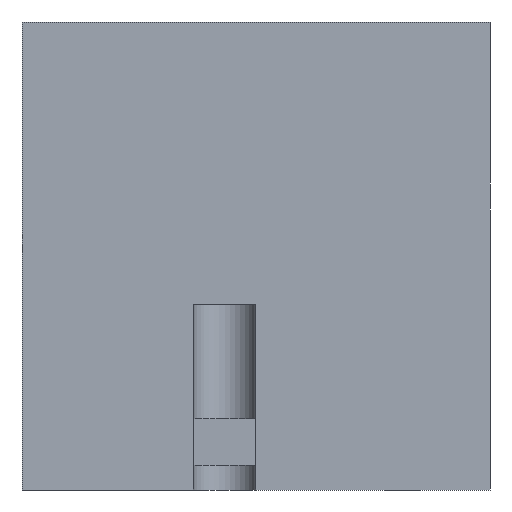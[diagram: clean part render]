
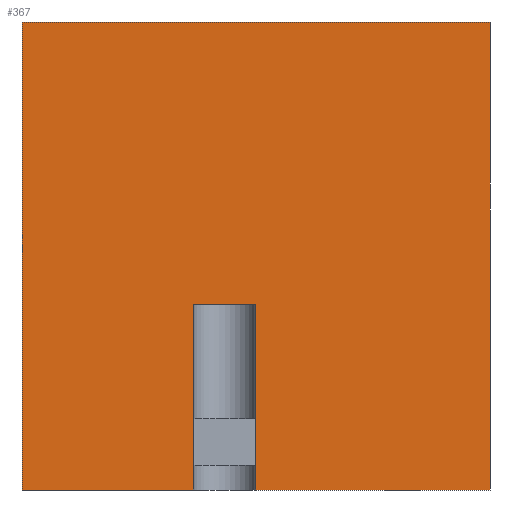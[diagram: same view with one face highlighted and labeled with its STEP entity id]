
A CAD part, left-side view. The second image highlights one B-rep face of the part: STEP entity #367.
In plain terms, the highlighted planar face has unit normal (-1, 0, 0).
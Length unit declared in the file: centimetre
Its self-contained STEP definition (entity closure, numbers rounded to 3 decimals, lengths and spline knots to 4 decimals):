
#74 = LINE ( 'NONE', #864, #508 ) ;
#102 = ORIENTED_EDGE ( 'NONE', *, *, #223, .F. ) ;
#103 = DIRECTION ( 'NONE',  ( 0., 0., -1. ) ) ;
#116 = CARTESIAN_POINT ( 'NONE',  ( 0., 500., 397.0077 ) ) ;
#165 = CARTESIAN_POINT ( 'NONE',  ( 0., 0., 0. ) ) ;
#223 = EDGE_CURVE ( 'NONE', #259, #1155, #889, .T. ) ;
#233 = DIRECTION ( 'NONE',  ( 0., -1., 0. ) ) ;
#239 = CARTESIAN_POINT ( 'NONE',  ( 0., 0., 1000. ) ) ;
#248 = CARTESIAN_POINT ( 'NONE',  ( 0., 0., 1000. ) ) ;
#259 = VERTEX_POINT ( 'NONE', #239 ) ;
#277 = CARTESIAN_POINT ( 'NONE',  ( 0., 1000., 0. ) ) ;
#291 = CARTESIAN_POINT ( 'NONE',  ( 0., 1000., 1000. ) ) ;
#305 = CARTESIAN_POINT ( 'NONE',  ( 0., 1000., 0. ) ) ;
#367 = ADVANCED_FACE ( 'NONE', ( #1546 ), #540, .F. ) ;
#376 = EDGE_CURVE ( 'NONE', #1059, #1155, #1405, .T. ) ;
#408 = DIRECTION ( 'NONE',  ( 0., -1., 0. ) ) ;
#462 = VERTEX_POINT ( 'NONE', #305 ) ;
#508 = VECTOR ( 'NONE', #233, 100. ) ;
#540 = PLANE ( 'NONE',  #1519 ) ;
#598 = ORIENTED_EDGE ( 'NONE', *, *, #1461, .F. ) ;
#643 = ORIENTED_EDGE ( 'NONE', *, *, #975, .T. ) ;
#657 = ORIENTED_EDGE ( 'NONE', *, *, #1395, .F. ) ;
#665 = VERTEX_POINT ( 'NONE', #1204 ) ;
#733 = ORIENTED_EDGE ( 'NONE', *, *, #875, .T. ) ;
#736 = LINE ( 'NONE', #1477, #1554 ) ;
#739 = DIRECTION ( 'NONE',  ( 0., -1., 0. ) ) ;
#762 = LINE ( 'NONE', #1514, #1486 ) ;
#768 = EDGE_LOOP ( 'NONE', ( #643, #733, #1009, #102, #598, #1148, #1170, #657 ) ) ;
#790 = CARTESIAN_POINT ( 'NONE',  ( 0., 1000., 397.0077 ) ) ;
#796 = DIRECTION ( 'NONE',  ( 0., 0., -1. ) ) ;
#809 = VECTOR ( 'NONE', #408, 100. ) ;
#854 = EDGE_CURVE ( 'NONE', #462, #1457, #762, .T. ) ;
#864 = CARTESIAN_POINT ( 'NONE',  ( 0., 1000., 1000. ) ) ;
#875 = EDGE_CURVE ( 'NONE', #1338, #1059, #896, .T. ) ;
#889 = LINE ( 'NONE', #248, #1022 ) ;
#896 = LINE ( 'NONE', #116, #1459 ) ;
#908 = DIRECTION ( 'NONE',  ( 0., -1., 0. ) ) ;
#949 = CARTESIAN_POINT ( 'NONE',  ( 0., 500., 0. ) ) ;
#975 = EDGE_CURVE ( 'NONE', #665, #1338, #1163, .T. ) ;
#981 = CARTESIAN_POINT ( 'NONE',  ( 0., 1000., 1000. ) ) ;
#1009 = ORIENTED_EDGE ( 'NONE', *, *, #376, .T. ) ;
#1022 = VECTOR ( 'NONE', #1498, 100. ) ;
#1059 = VERTEX_POINT ( 'NONE', #949 ) ;
#1146 = VECTOR ( 'NONE', #908, 100. ) ;
#1148 = ORIENTED_EDGE ( 'NONE', *, *, #1248, .T. ) ;
#1155 = VERTEX_POINT ( 'NONE', #165 ) ;
#1163 = LINE ( 'NONE', #790, #1146 ) ;
#1170 = ORIENTED_EDGE ( 'NONE', *, *, #854, .T. ) ;
#1204 = CARTESIAN_POINT ( 'NONE',  ( 0., 634.0227, 397.0077 ) ) ;
#1248 = EDGE_CURVE ( 'NONE', #1470, #462, #1419, .T. ) ;
#1280 = CARTESIAN_POINT ( 'NONE',  ( 0., 1000., 1000. ) ) ;
#1338 = VERTEX_POINT ( 'NONE', #1583 ) ;
#1363 = CARTESIAN_POINT ( 'NONE',  ( 0., 634.0227, 0. ) ) ;
#1392 = DIRECTION ( 'NONE',  ( 0., 0., -1. ) ) ;
#1395 = EDGE_CURVE ( 'NONE', #665, #1457, #736, .T. ) ;
#1405 = LINE ( 'NONE', #277, #809 ) ;
#1414 = DIRECTION ( 'NONE',  ( 0., 0., -1. ) ) ;
#1419 = LINE ( 'NONE', #291, #1452 ) ;
#1452 = VECTOR ( 'NONE', #796, 100. ) ;
#1457 = VERTEX_POINT ( 'NONE', #1363 ) ;
#1459 = VECTOR ( 'NONE', #1392, 100. ) ;
#1461 = EDGE_CURVE ( 'NONE', #1470, #259, #74, .T. ) ;
#1470 = VERTEX_POINT ( 'NONE', #981 ) ;
#1477 = CARTESIAN_POINT ( 'NONE',  ( 0., 634.0227, 397.0077 ) ) ;
#1486 = VECTOR ( 'NONE', #739, 100. ) ;
#1498 = DIRECTION ( 'NONE',  ( 0., 0., -1. ) ) ;
#1514 = CARTESIAN_POINT ( 'NONE',  ( 0., 1000., 0. ) ) ;
#1519 = AXIS2_PLACEMENT_3D ( 'NONE', #1280, #1537, #1414 ) ;
#1537 = DIRECTION ( 'NONE',  ( 1., 0., 0. ) ) ;
#1546 = FACE_OUTER_BOUND ( 'NONE', #768, .T. ) ;
#1554 = VECTOR ( 'NONE', #103, 100. ) ;
#1583 = CARTESIAN_POINT ( 'NONE',  ( 0., 500., 397.0077 ) ) ;
